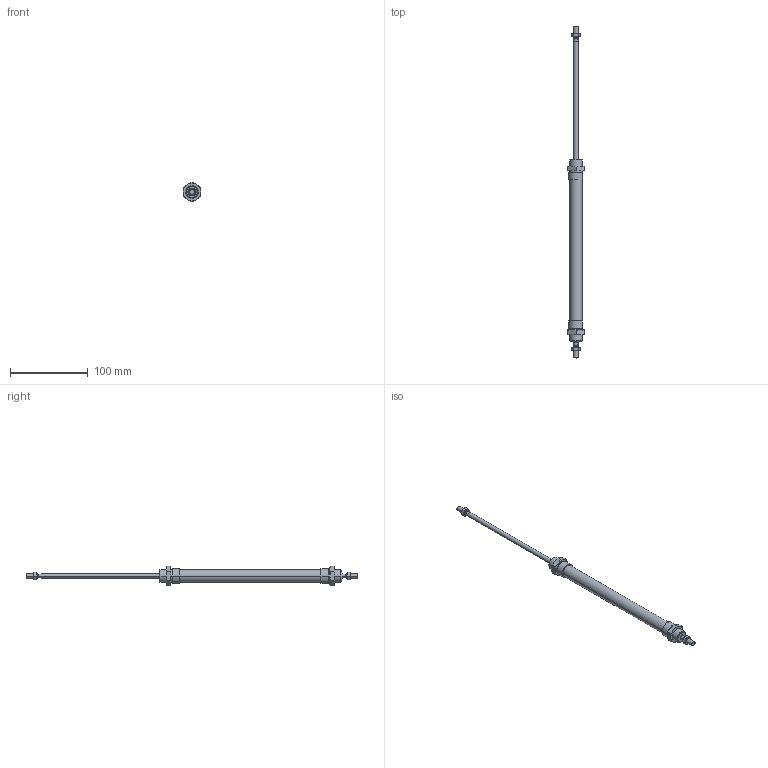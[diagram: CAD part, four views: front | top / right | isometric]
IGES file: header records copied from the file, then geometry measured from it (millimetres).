
Global section: file name: No Iges File Name specified; native system: AutoDesk Inventor R6.0; preprocessor: AutoDesk Inventor Iges Exporter R6.0; author: No Author specified; organization: No Organization specified; date: 20030403.072050; units: millimetre
Bounding box: 22 x 426 x 25.4 mm (x, y, z)
Volume: 57131.2 mm3; surface area: 28119.8 mm2
Topology: 6 solids, 6 shells, 180 faces, 388 edges, 228 vertices
Faces by surface type: cone 68, plane 56, bspline 30, cylinder 20, revolution 6
